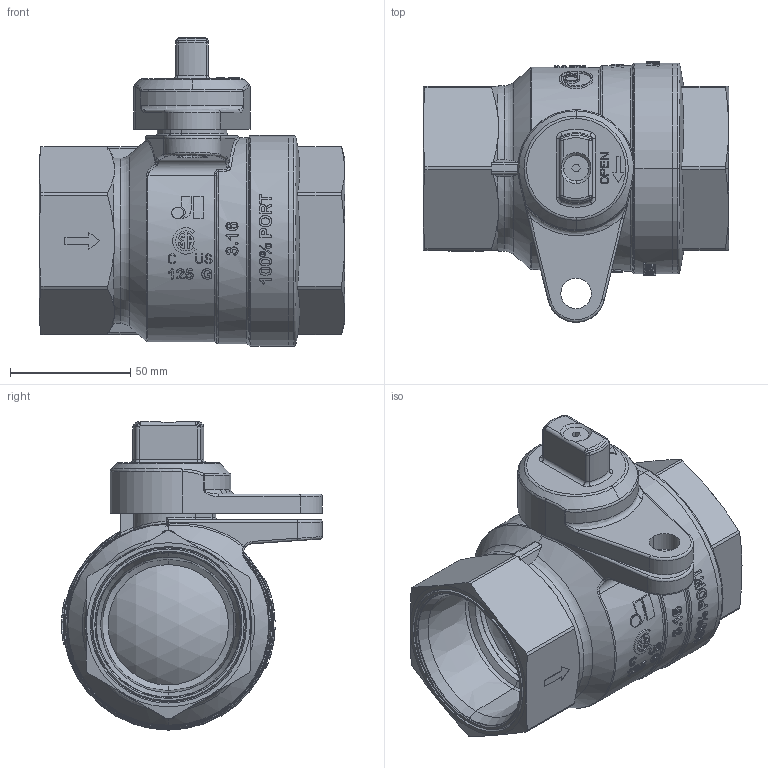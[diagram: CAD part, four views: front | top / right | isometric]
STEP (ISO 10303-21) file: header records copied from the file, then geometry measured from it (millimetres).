
FILE_DESCRIPTION(('Open CASCADE Model'),'2;1');
FILE_NAME('Open CASCADE Shape Model','2021-11-24T14:24:12',('Author'),( 'Open CASCADE'),'Open CASCADE STEP processor 7.3','Open CASCADE 7.3' ,'Unknown');
FILE_SCHEMA(('AUTOMOTIVE_DESIGN { 1 0 10303 214 1 1 1 1 }'));
Length unit declared in the file: millimetre
Products named in the file (20): Open CASCADE STEP translator 7.3 1; Open CASCADE STEP translator 7.3 1.1; Open CASCADE STEP translator 7.3 1.2; Open CASCADE STEP translator 7.3 1.3; Open CASCADE STEP translator 7.3 1.4; Open CASCADE STEP translator 7.3 1.5; Open CASCADE STEP translator 7.3 1.6; Open CASCADE STEP translator 7.3 1.7; Open CASCADE STEP translator 7.3 1.8; Open CASCADE STEP translator 7.3 1.9; Open CASCADE STEP translator 7.3 1.10; Open CASCADE STEP translator 7.3 1.11; Open CASCADE STEP translator 7.3 1.12; Open CASCADE STEP translator 7.3 1.13; Open CASCADE STEP translator 7.3 1.14; Open CASCADE STEP translator 7.3 1.15; Open CASCADE STEP translator 7.3 1.16; Open CASCADE STEP translator 7.3 1.17; Open CASCADE STEP translator 7.3 1.18; Open CASCADE STEP translator 7.3 1.19
Assembly tree (19 placements, depth 2):
  Open CASCADE STEP translator 7.3 1
    Open CASCADE STEP translator 7.3 1.1
    Open CASCADE STEP translator 7.3 1.2
    Open CASCADE STEP translator 7.3 1.3
    Open CASCADE STEP translator 7.3 1.4
    Open CASCADE STEP translator 7.3 1.5
    Open CASCADE STEP translator 7.3 1.6
    Open CASCADE STEP translator 7.3 1.7
    Open CASCADE STEP translator 7.3 1.8
    Open CASCADE STEP translator 7.3 1.9
    Open CASCADE STEP translator 7.3 1.10
    Open CASCADE STEP translator 7.3 1.11
    Open CASCADE STEP translator 7.3 1.12
    Open CASCADE STEP translator 7.3 1.13
    Open CASCADE STEP translator 7.3 1.14
    Open CASCADE STEP translator 7.3 1.15
    Open CASCADE STEP translator 7.3 1.16
    Open CASCADE STEP translator 7.3 1.17
    Open CASCADE STEP translator 7.3 1.18
    Open CASCADE STEP translator 7.3 1.19
Bounding box: 126.9 x 108.35 x 128.05 mm (x, y, z)
Volume: 325823.5 mm3; surface area: 176889.7 mm2
Topology: 12 solids, 19 shells, 1781 faces, 4780 edges, 3098 vertices
Faces by surface type: extrusion 903, plane 370, cylinder 216, cone 140, torus 75, bspline 45, sphere 16, revolution 16
Entity records: 200246 total; most frequent: CARTESIAN_POINT 115892, DIRECTION 11014, ORIENTED_EDGE 9526, PCURVE 9526, DEFINITIONAL_REPRESENTATION 9526, VECTOR 7673, B_SPLINE_CURVE_WITH_KNOTS 7381, LINE 6770
